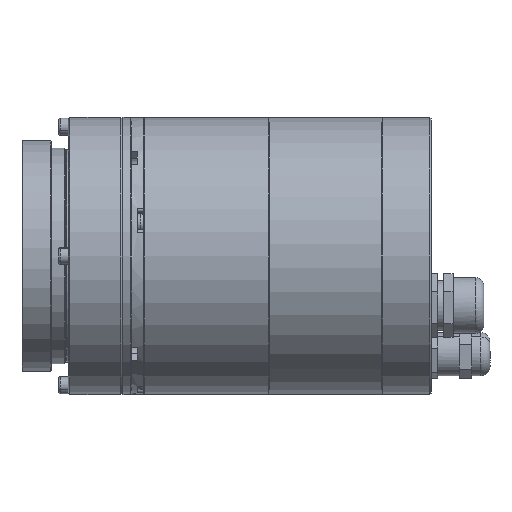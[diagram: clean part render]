
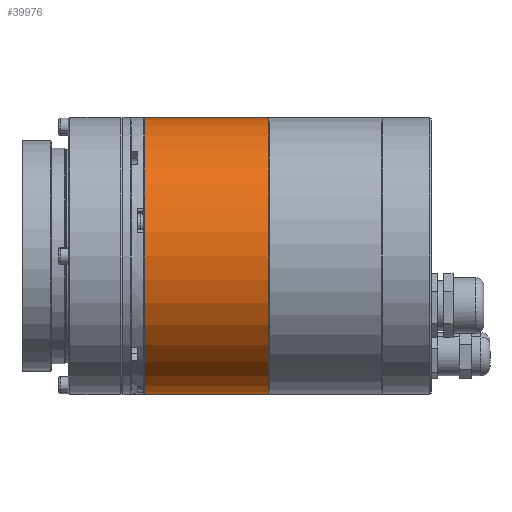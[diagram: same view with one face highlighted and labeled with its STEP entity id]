
A CAD part, front view. The second image highlights one B-rep face of the part: STEP entity #39976.
In plain terms, the highlighted cylindrical face has radius 45 mm (diameter 90 mm), a full revolution.
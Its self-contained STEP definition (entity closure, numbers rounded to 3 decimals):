
#39944=CARTESIAN_POINT('',(40.6,0.,0.));
#39945=DIRECTION('',(0.,1.,0.));
#39946=DIRECTION('',(-1.,0.,0.));
#39947=AXIS2_PLACEMENT_3D('',#39944,#39946,#39945);
#39948=CYLINDRICAL_SURFACE('',#39947,45.);
#39949=CARTESIAN_POINT('',(40.6,45.,0.));
#39950=VERTEX_POINT('',#39949);
#39951=CARTESIAN_POINT('',(0.2,45.,0.));
#39952=VERTEX_POINT('',#39951);
#39953=CARTESIAN_POINT('',(40.6,45.,0.));
#39954=DIRECTION('',(-1.,0.,0.));
#39955=VECTOR('',#39954,40.4);
#39956=LINE('',#39953,#39955);
#39957=EDGE_CURVE('',#39950,#39952,#39956,.T.);
#39958=ORIENTED_EDGE('E2970',*,*,#39957,.T.);
#39959=CARTESIAN_POINT('',(0.2,0.,0.));
#39960=DIRECTION('',(0.,1.,0.));
#39961=DIRECTION('',(1.,0.,0.));
#39962=AXIS2_PLACEMENT_3D('',#39959,#39961,#39960);
#39963=CIRCLE('',#39962,45.);
#39964=EDGE_CURVE('',#39952,#39952,#39963,.T.);
#39965=ORIENTED_EDGE('E2971',*,*,#39964,.T.);
#39966=ORIENTED_EDGE('E2971',*,*,#39957,.F.);
#39967=CARTESIAN_POINT('',(40.6,0.,0.));
#39968=DIRECTION('',(0.,1.,0.));
#39969=DIRECTION('',(-1.,0.,0.));
#39970=AXIS2_PLACEMENT_3D('',#39967,#39969,#39968);
#39971=CIRCLE('',#39970,45.);
#39972=EDGE_CURVE('',#39950,#39950,#39971,.T.);
#39973=ORIENTED_EDGE('E2972',*,*,#39972,.T.);
#39974=EDGE_LOOP('',(#39958,#39965,#39966,#39973));
#39975=FACE_OUTER_BOUND('',#39974,.T.);
#39976=ADVANCED_FACE('F1262',(#39975),#39948,.T.);
